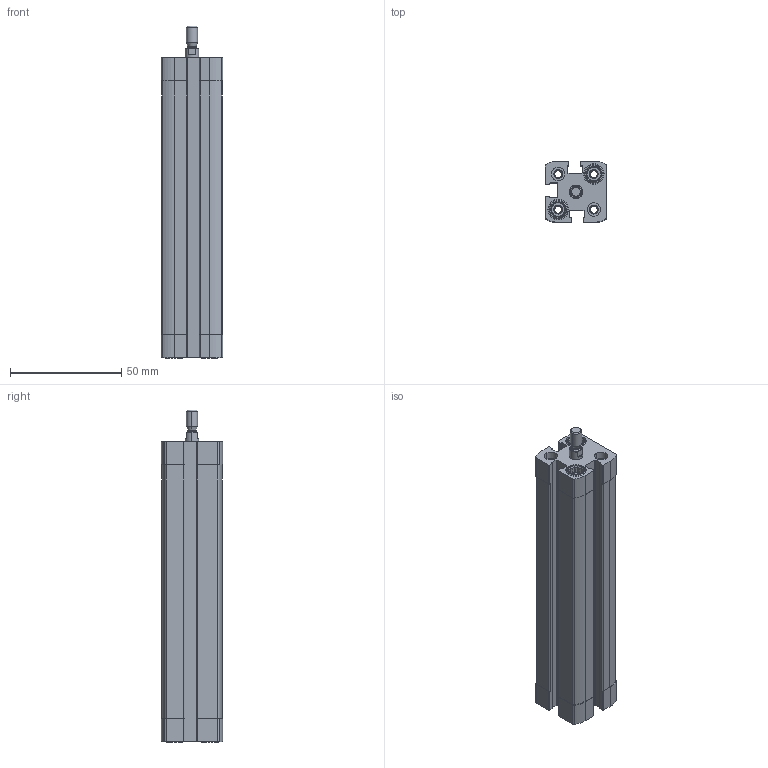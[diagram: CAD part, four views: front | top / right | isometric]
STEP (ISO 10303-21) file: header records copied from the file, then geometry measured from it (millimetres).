
FILE_DESCRIPTION (( 'STEP AP203' ), '1' );
FILE_NAME ('CCN12-100M.STEP', '2017-03-28T12:45:47', ( '' ), ( '' ), 'SwSTEP 2.0', 'SolidWorks 2016', '' );
FILE_SCHEMA (( 'CONFIG_CONTROL_DESIGN' ));
Length unit declared in the file: millimetre
Products named in the file (3): CCN-100--(Z); CCN-100_(KS); CCN12-100M
Assembly tree (2 placements, depth 2):
  CCN12-100M
    CCN-100--(Z)
    CCN-100_(KS)
Bounding box: 27.5 x 27.5 x 149.2 mm (x, y, z)
Volume: 68209.3 mm3; surface area: 35459.8 mm2
Topology: 2 solids, 2 shells, 365 faces, 938 edges, 612 vertices
Faces by surface type: plane 187, cylinder 134, cone 40, bspline 4
Entity records: 11573 total; most frequent: CARTESIAN_POINT 2280, DIRECTION 1890, ORIENTED_EDGE 1876, EDGE_CURVE 938, AXIS2_PLACEMENT_3D 686, VERTEX_POINT 612, VECTOR 518, LINE 518
